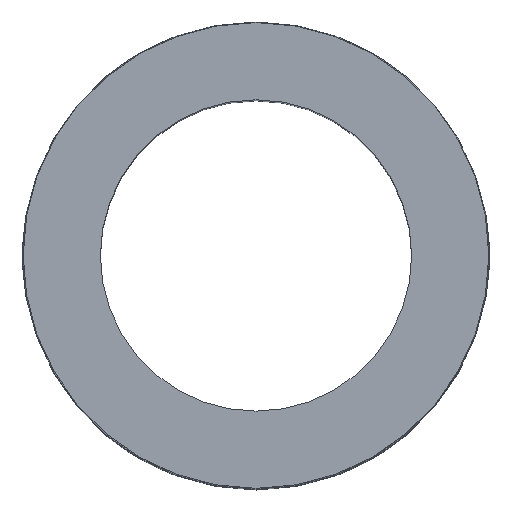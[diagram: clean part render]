
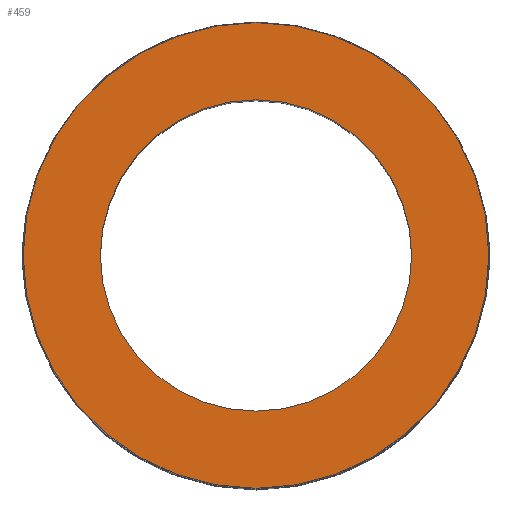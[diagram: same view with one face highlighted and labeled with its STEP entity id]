
A CAD part, top view. The second image highlights one B-rep face of the part: STEP entity #459.
In plain terms, the highlighted planar face has unit normal (0, 0, 1).
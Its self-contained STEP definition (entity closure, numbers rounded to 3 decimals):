
#49=CARTESIAN_POINT('',(-27.799,1.811,100.0));
#50=VERTEX_POINT('',#49);
#59=CARTESIAN_POINT('',(22.201,1.811,100.0));
#60=VERTEX_POINT('',#59);
#61=CARTESIAN_POINT('',(-2.799,1.811,100.0));
#62=DIRECTION('',(0.0,0.0,-1.0));
#63=DIRECTION('',(-1.0,0.0,0.0));
#64=AXIS2_PLACEMENT_3D('',#61,#62,#63);
#65=CIRCLE('',#64,25.0);
#66=EDGE_CURVE('',#60,#50,#65,.T.);
#235=CARTESIAN_POINT('',(-40.199,1.811,100.0));
#236=VERTEX_POINT('',#235);
#243=CARTESIAN_POINT('',(34.601,1.811,100.0));
#244=VERTEX_POINT('',#243);
#245=CARTESIAN_POINT('',(-2.799,1.811,100.0));
#246=DIRECTION('',(0.0,0.0,-1.0));
#247=DIRECTION('',(-1.0,0.0,0.0));
#248=AXIS2_PLACEMENT_3D('',#245,#246,#247);
#249=CIRCLE('',#248,37.4);
#250=EDGE_CURVE('',#236,#244,#249,.T.);
#412=CARTESIAN_POINT('',(-2.799,1.811,100.0));
#413=DIRECTION('',(0.0,0.0,-1.0));
#414=DIRECTION('',(-1.0,0.0,0.0));
#415=AXIS2_PLACEMENT_3D('',#412,#413,#414);
#416=CIRCLE('',#415,37.4);
#417=EDGE_CURVE('',#244,#236,#416,.T.);
#440=CARTESIAN_POINT('',(-2.799,1.811,100.0));
#441=DIRECTION('',(0.0,0.0,-1.0));
#442=DIRECTION('',(-1.0,0.0,0.0));
#443=AXIS2_PLACEMENT_3D('',#440,#441,#442);
#444=PLANE('',#443);
#445=ORIENTED_EDGE('',*,*,#417,.F.);
#446=ORIENTED_EDGE('',*,*,#250,.F.);
#447=EDGE_LOOP('',(#445,#446));
#448=FACE_OUTER_BOUND('',#447,.T.);
#449=ORIENTED_EDGE('',*,*,#66,.T.);
#450=CARTESIAN_POINT('',(-2.799,1.811,100.0));
#451=DIRECTION('',(0.0,0.0,-1.0));
#452=DIRECTION('',(-1.0,0.0,0.0));
#453=AXIS2_PLACEMENT_3D('',#450,#451,#452);
#454=CIRCLE('',#453,25.0);
#455=EDGE_CURVE('',#50,#60,#454,.T.);
#456=ORIENTED_EDGE('',*,*,#455,.T.);
#457=EDGE_LOOP('',(#449,#456));
#458=FACE_BOUND('',#457,.T.);
#459=ADVANCED_FACE('',(#448,#458),#444,.F.);
